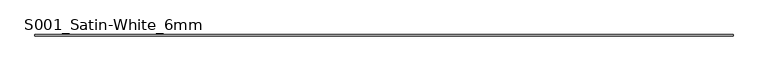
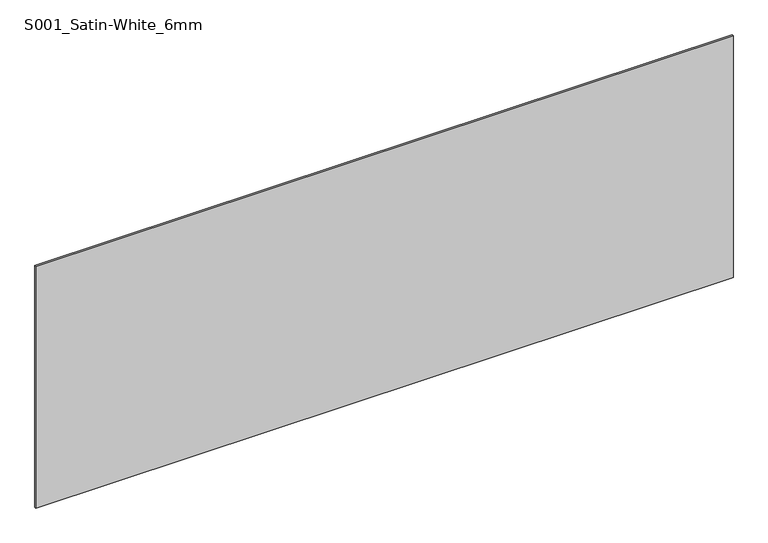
"""IFC4 building model written with IfcOpenShell, lengths in millimetres: plate geometry, Curtain-Panels_Outdoor-Material_HI-MACS_Solids : S001_Satin-White_6mm."""

from ifc_helpers import new_model, si_unit, origin, origin_with_axes, place, context, project, spatial, polyline, outline, extrude, source, transform, mapped, element, save


def s001_satin_white_6mm_b1b82a69(model_context):
    return source(origin(), model_context, "Body", "SweptSolid", [
        extrude(outline(polyline([(1840.0, 3.0), (1840.0, -3.0), (-1840.0, -3.0), (-1840.0, 3.0), (1840.0, 3.0)])), origin_with_axes(), (0.0, 0.0, 1.0), 1350.0),
    ])


if __name__ == "__main__":
    model = new_model("IFC4")
    model_context = context("Model", 3, world=origin())
    ifc_project = project(units=[si_unit("LENGTHUNIT", "METRE", prefix="MILLI")], contexts=[model_context])
    site = spatial("IfcSite", under=ifc_project)
    building = spatial("IfcBuilding", under=site)
    placement = place(None, origin())
    s001_satin_white_6mm_shape = s001_satin_white_6mm_b1b82a69(model_context)
    element("IfcPlate", 1, ObjectType="Curtain-Panels_Outdoor-Material_HI-MACS_Solids : S001_Satin-White_6mm", at=placement, inside=building, context=model_context, shape_type="MappedRepresentation", body=[
        mapped(s001_satin_white_6mm_shape, transform((0.0, 0.0, 0.0), x_axis=(1.0, 0.0, 0.0), y_axis=(0.0, 1.0, 0.0), z_axis=(0.0, 0.0, 1.0))),
    ])
    save(model, "model.ifc")
